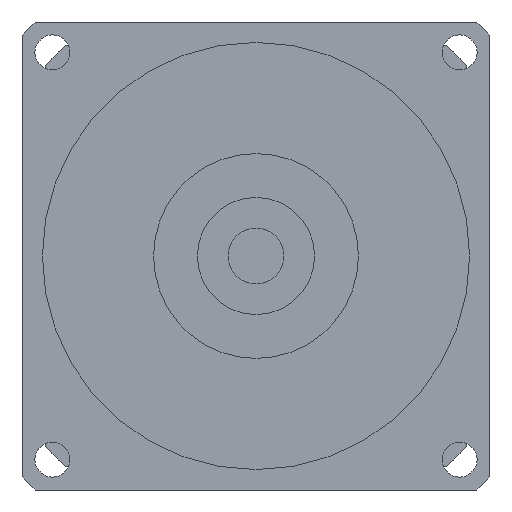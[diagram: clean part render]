
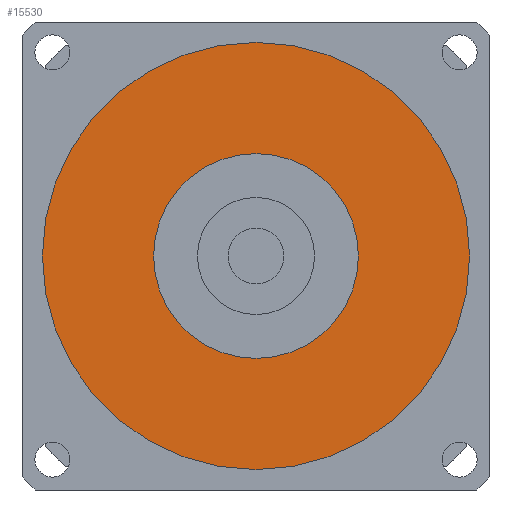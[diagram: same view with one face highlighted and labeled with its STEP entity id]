
A CAD part, left-side view. The second image highlights one B-rep face of the part: STEP entity #15530.
In plain terms, the highlighted planar face has unit normal (-1, 0, 0) as drawn and (0, 0, -1) by its records, which use the part's own axes.
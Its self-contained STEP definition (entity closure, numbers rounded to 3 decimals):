
#15100=CARTESIAN_POINT('',(0.,0.,
-88.5));
#15110=DIRECTION('',(0.,0.,1.));
#15120=DIRECTION('',(-1.,0.,0.));
#15130=AXIS2_PLACEMENT_3D('',#15100,#15110,#15120);
#15140=PLANE('',#15130);
#15150=CARTESIAN_POINT('',(0.,0.,
-88.5));
#15160=DIRECTION('',(0.,0.,1.));
#15170=DIRECTION('',(0.,-1.,0.));
#15180=AXIS2_PLACEMENT_3D('',#15150,#15160,#15170);
#15190=CIRCLE('',#15180,36.51);
#15200=CARTESIAN_POINT('',(0.,-36.51,-88.5));
#15210=VERTEX_POINT('',#15200);
#15220=CARTESIAN_POINT('',(36.51,0.,-88.5));
#15230=VERTEX_POINT('',#15220);
#15240=EDGE_CURVE('',#15210,#15230,#15190,.T.);
#15250=ORIENTED_EDGE('',*,*,#15240,.F.);
#15260=CARTESIAN_POINT('',(-36.51,0.,-88.5));
#15270=VERTEX_POINT('',#15260);
#15280=EDGE_CURVE('',#15230,#15270,#15190,.T.);
#15290=ORIENTED_EDGE('',*,*,#15280,.F.);
#15300=EDGE_CURVE('',#15270,#15210,#15190,.T.);
#15310=ORIENTED_EDGE('',*,*,#15300,.F.);
#15320=EDGE_LOOP('',(#15310,#15290,#15250));
#15330=FACE_OUTER_BOUND('',#15320,.T.);
#15340=CARTESIAN_POINT('',(0.,0.,
-88.5));
#15350=DIRECTION('',(0.,0.,1.));
#15360=DIRECTION('',(0.,-1.,0.));
#15370=AXIS2_PLACEMENT_3D('',#15340,#15350,#15360);
#15380=CIRCLE('',#15370,17.5);
#15390=CARTESIAN_POINT('',(17.5,0.,-88.5));
#15400=VERTEX_POINT('',#15390);
#15410=CARTESIAN_POINT('',(-17.5,0.,-88.5));
#15420=VERTEX_POINT('',#15410);
#15430=EDGE_CURVE('',#15400,#15420,#15380,.T.);
#15440=ORIENTED_EDGE('',*,*,#15430,.T.);
#15450=CARTESIAN_POINT('',(0.,-17.5,-88.5));
#15460=VERTEX_POINT('',#15450);
#15470=EDGE_CURVE('',#15460,#15400,#15380,.T.);
#15480=ORIENTED_EDGE('',*,*,#15470,.T.);
#15490=EDGE_CURVE('',#15420,#15460,#15380,.T.);
#15500=ORIENTED_EDGE('',*,*,#15490,.T.);
#15510=EDGE_LOOP('',(#15500,#15480,#15440));
#15520=FACE_BOUND('',#15510,.T.);
#15530=ADVANCED_FACE('',(#15330,#15520),#15140,.F.);
